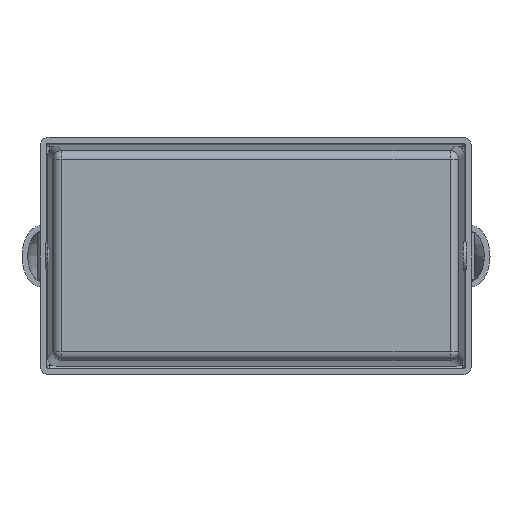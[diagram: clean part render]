
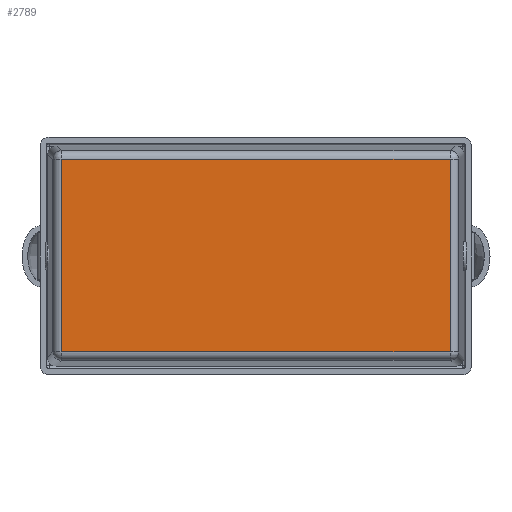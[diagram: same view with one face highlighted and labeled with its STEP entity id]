
A CAD part, top view. The second image highlights one B-rep face of the part: STEP entity #2789.
In plain terms, the highlighted planar face has unit normal (0, 0, 1).
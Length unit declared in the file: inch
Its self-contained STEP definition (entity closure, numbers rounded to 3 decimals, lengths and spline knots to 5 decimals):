
#633 = LINE ( 'NONE', #2096, #16176 ) ;
#1188 = CARTESIAN_POINT ( 'NONE',  ( -2.04233, 1.01108, 3.25 ) ) ;
#1674 = VECTOR ( 'NONE', #15489, 39.37008 ) ;
#2096 = CARTESIAN_POINT ( 'NONE',  ( 2.13077, -1.01108, 3.25 ) ) ;
#2789 = ADVANCED_FACE ( 'NONE', ( #5380 ), #6273, .T. ) ;
#2917 = CARTESIAN_POINT ( 'NONE',  ( -2.04233, -1.09952, 3.25 ) ) ;
#2978 = DIRECTION ( 'NONE',  ( 0., -1., 0. ) ) ;
#3556 = DIRECTION ( 'NONE',  ( 1., 0., 0. ) ) ;
#3602 = ORIENTED_EDGE ( 'NONE', *, *, #16237, .T. ) ;
#5194 = VECTOR ( 'NONE', #2978, 39.37008 ) ;
#5368 = LINE ( 'NONE', #7050, #8587 ) ;
#5380 = FACE_OUTER_BOUND ( 'NONE', #9641, .T. ) ;
#6273 = PLANE ( 'NONE',  #11088 ) ;
#6335 = VERTEX_POINT ( 'NONE', #12830 ) ;
#7050 = CARTESIAN_POINT ( 'NONE',  ( -2.13077, 1.01108, 3.25 ) ) ;
#8352 = ORIENTED_EDGE ( 'NONE', *, *, #11213, .T. ) ;
#8569 = EDGE_CURVE ( 'NONE', #11229, #6335, #633, .T. ) ;
#8587 = VECTOR ( 'NONE', #11009, 39.37008 ) ;
#8769 = VERTEX_POINT ( 'NONE', #1188 ) ;
#8806 = CARTESIAN_POINT ( 'NONE',  ( 2.1875, -1.15625, 3.25 ) ) ;
#9361 = LINE ( 'NONE', #11317, #1674 ) ;
#9641 = EDGE_LOOP ( 'NONE', ( #3602, #8352, #12588, #10099 ) ) ;
#9941 = VERTEX_POINT ( 'NONE', #15454 ) ;
#10099 = ORIENTED_EDGE ( 'NONE', *, *, #13764, .T. ) ;
#11009 = DIRECTION ( 'NONE',  ( -1., 0., 0. ) ) ;
#11088 = AXIS2_PLACEMENT_3D ( 'NONE', #8806, #11354, #3556 ) ;
#11213 = EDGE_CURVE ( 'NONE', #8769, #11229, #12863, .T. ) ;
#11229 = VERTEX_POINT ( 'NONE', #13372 ) ;
#11317 = CARTESIAN_POINT ( 'NONE',  ( 2.04233, 1.09952, 3.25 ) ) ;
#11354 = DIRECTION ( 'NONE',  ( 0., 0., 1. ) ) ;
#12588 = ORIENTED_EDGE ( 'NONE', *, *, #8569, .T. ) ;
#12830 = CARTESIAN_POINT ( 'NONE',  ( 2.04233, -1.01108, 3.25 ) ) ;
#12863 = LINE ( 'NONE', #2917, #5194 ) ;
#13372 = CARTESIAN_POINT ( 'NONE',  ( -2.04233, -1.01108, 3.25 ) ) ;
#13764 = EDGE_CURVE ( 'NONE', #6335, #9941, #9361, .T. ) ;
#13789 = DIRECTION ( 'NONE',  ( 1., 0., 0. ) ) ;
#15454 = CARTESIAN_POINT ( 'NONE',  ( 2.04233, 1.01108, 3.25 ) ) ;
#15489 = DIRECTION ( 'NONE',  ( 0., 1., 0. ) ) ;
#16176 = VECTOR ( 'NONE', #13789, 39.37008 ) ;
#16237 = EDGE_CURVE ( 'NONE', #9941, #8769, #5368, .T. ) ;
